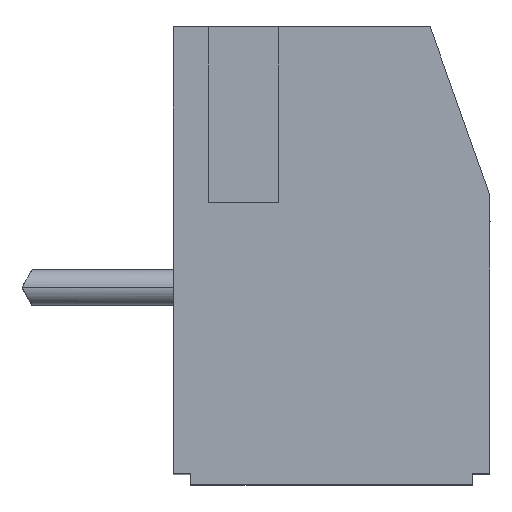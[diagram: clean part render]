
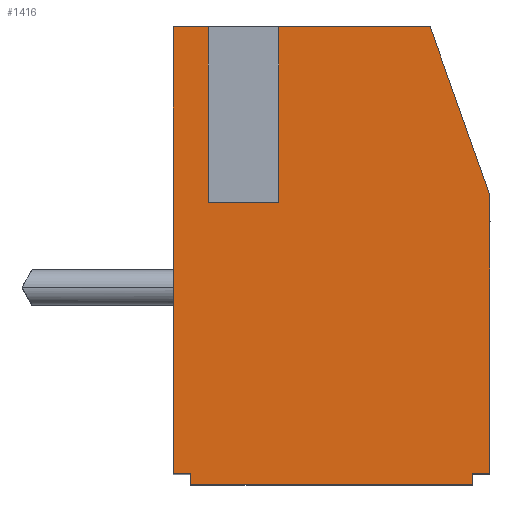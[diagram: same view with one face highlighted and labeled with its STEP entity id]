
A CAD part, top view. The second image highlights one B-rep face of the part: STEP entity #1416.
In plain terms, the highlighted planar face has unit normal (0, 0, 1).
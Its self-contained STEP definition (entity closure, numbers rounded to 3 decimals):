
#618 = EDGE_CURVE ( 'NONE', #639, #619, #4046, .T. ) ;
#619 = VERTEX_POINT ( 'NONE', #4042 ) ;
#636 = VERTEX_POINT ( 'NONE', #4081 ) ;
#638 = EDGE_CURVE ( 'NONE', #636, #639, #4080, .T. ) ;
#639 = VERTEX_POINT ( 'NONE', #4076 ) ;
#665 = EDGE_CURVE ( 'NONE', #685, #666, #4160, .T. ) ;
#666 = VERTEX_POINT ( 'NONE', #4156 ) ;
#672 = VERTEX_POINT ( 'NONE', #4141 ) ;
#674 = EDGE_CURVE ( 'NONE', #672, #5402, #4140, .T. ) ;
#679 = EDGE_CURVE ( 'NONE', #5404, #680, #4194, .T. ) ;
#680 = VERTEX_POINT ( 'NONE', #4190 ) ;
#684 = EDGE_CURVE ( 'NONE', #619, #685, #4184, .T. ) ;
#685 = VERTEX_POINT ( 'NONE', #4180 ) ;
#791 = VERTEX_POINT ( 'NONE', #4336 ) ;
#793 = EDGE_CURVE ( 'NONE', #791, #636, #4335, .T. ) ;
#1208 = EDGE_CURVE ( 'NONE', #1287, #791, #5043, .T. ) ;
#1287 = VERTEX_POINT ( 'NONE', #5134 ) ;
#1416 = ADVANCED_FACE ( 'NONE', ( #5445 ), #5444, .F. ) ;
#1417 = EDGE_LOOP ( 'NONE', ( #1418, #1419, #1481, #1482, #1485, #1488, #1490, #1491, #1492, #1468, #1469, #1470, #1471 ) ) ;
#1418 = ORIENTED_EDGE ( 'NONE', *, *, #679, .F. ) ;
#1419 = ORIENTED_EDGE ( 'NONE', *, *, #5413, .T. ) ;
#1468 = ORIENTED_EDGE ( 'NONE', *, *, #638, .F. ) ;
#1469 = ORIENTED_EDGE ( 'NONE', *, *, #793, .F. ) ;
#1470 = ORIENTED_EDGE ( 'NONE', *, *, #1208, .F. ) ;
#1471 = ORIENTED_EDGE ( 'NONE', *, *, #1472, .T. ) ;
#1472 = EDGE_CURVE ( 'NONE', #1287, #680, #5502, .T. ) ;
#1481 = ORIENTED_EDGE ( 'NONE', *, *, #674, .F. ) ;
#1482 = ORIENTED_EDGE ( 'NONE', *, *, #1483, .T. ) ;
#1483 = EDGE_CURVE ( 'NONE', #672, #1484, #5552, .T. ) ;
#1484 = VERTEX_POINT ( 'NONE', #5548 ) ;
#1485 = ORIENTED_EDGE ( 'NONE', *, *, #1486, .T. ) ;
#1486 = EDGE_CURVE ( 'NONE', #1484, #1487, #5547, .T. ) ;
#1487 = VERTEX_POINT ( 'NONE', #5543 ) ;
#1488 = ORIENTED_EDGE ( 'NONE', *, *, #1489, .T. ) ;
#1489 = EDGE_CURVE ( 'NONE', #1487, #666, #5542, .T. ) ;
#1490 = ORIENTED_EDGE ( 'NONE', *, *, #665, .F. ) ;
#1491 = ORIENTED_EDGE ( 'NONE', *, *, #684, .F. ) ;
#1492 = ORIENTED_EDGE ( 'NONE', *, *, #618, .F. ) ;
#4042 = CARTESIAN_POINT ( 'NONE',  ( 3.7, -0.3, 0. ) ) ;
#4043 = DIRECTION ( 'NONE',  ( 0., -1., 0. ) ) ;
#4044 = VECTOR ( 'NONE', #4043, 1000. ) ;
#4045 = CARTESIAN_POINT ( 'NONE',  ( 3.7, 6.2, 0. ) ) ;
#4046 = LINE ( 'NONE', #4045, #4044 ) ;
#4076 = CARTESIAN_POINT ( 'NONE',  ( 3.7, 0., 0. ) ) ;
#4077 = DIRECTION ( 'NONE',  ( -1., 0., 0. ) ) ;
#4078 = VECTOR ( 'NONE', #4077, 1000. ) ;
#4079 = CARTESIAN_POINT ( 'NONE',  ( -0.3, 0., 0. ) ) ;
#4080 = LINE ( 'NONE', #4079, #4078 ) ;
#4081 = CARTESIAN_POINT ( 'NONE',  ( 4.2, 0., 0. ) ) ;
#4137 = DIRECTION ( 'NONE',  ( 0., -1., 0. ) ) ;
#4138 = VECTOR ( 'NONE', #4137, 1000. ) ;
#4139 = CARTESIAN_POINT ( 'NONE',  ( -3.396, 6.2, 0. ) ) ;
#4140 = LINE ( 'NONE', #4139, #4138 ) ;
#4141 = CARTESIAN_POINT ( 'NONE',  ( -3.396, 12.7, 0. ) ) ;
#4156 = CARTESIAN_POINT ( 'NONE',  ( -4.3, 0., 0. ) ) ;
#4157 = DIRECTION ( 'NONE',  ( 0., 1., 0. ) ) ;
#4158 = VECTOR ( 'NONE', #4157, 1000. ) ;
#4159 = CARTESIAN_POINT ( 'NONE',  ( -4.3, 6.2, 0. ) ) ;
#4160 = LINE ( 'NONE', #4159, #4158 ) ;
#4180 = CARTESIAN_POINT ( 'NONE',  ( -4.3, -0.3, 0. ) ) ;
#4181 = DIRECTION ( 'NONE',  ( -1., 0., 0. ) ) ;
#4182 = VECTOR ( 'NONE', #4181, 1000. ) ;
#4183 = CARTESIAN_POINT ( 'NONE',  ( -0.3, -0.3, 0. ) ) ;
#4184 = LINE ( 'NONE', #4183, #4182 ) ;
#4190 = CARTESIAN_POINT ( 'NONE',  ( -2.204, 12.7, 0. ) ) ;
#4191 = DIRECTION ( 'NONE',  ( 0., 1., 0. ) ) ;
#4192 = VECTOR ( 'NONE', #4191, 1000. ) ;
#4193 = CARTESIAN_POINT ( 'NONE',  ( -2.204, 6.2, 0. ) ) ;
#4194 = LINE ( 'NONE', #4193, #4192 ) ;
#4332 = DIRECTION ( 'NONE',  ( 0., -1., 0. ) ) ;
#4333 = VECTOR ( 'NONE', #4332, 1000. ) ;
#4334 = CARTESIAN_POINT ( 'NONE',  ( 4.2, 6.2, 0. ) ) ;
#4335 = LINE ( 'NONE', #4334, #4333 ) ;
#4336 = CARTESIAN_POINT ( 'NONE',  ( 4.2, 7.9, 0. ) ) ;
#5040 = DIRECTION ( 'NONE',  ( 0.334, -0.943, 0. ) ) ;
#5041 = VECTOR ( 'NONE', #5040, 1000. ) ;
#5042 = CARTESIAN_POINT ( 'NONE',  ( 2.5, 12.7, 0. ) ) ;
#5043 = LINE ( 'NONE', #5042, #5041 ) ;
#5134 = CARTESIAN_POINT ( 'NONE',  ( 2.5, 12.7, 0. ) ) ;
#5402 = VERTEX_POINT ( 'NONE', #8531 ) ;
#5404 = VERTEX_POINT ( 'NONE', #8530 ) ;
#5413 = EDGE_CURVE ( 'NONE', #5404, #5402, #8577, .T. ) ;
#5440 = DIRECTION ( 'NONE',  ( -1., 0., 0. ) ) ;
#5441 = DIRECTION ( 'NONE',  ( 0., 0., -1. ) ) ;
#5442 = CARTESIAN_POINT ( 'NONE',  ( 4.2, -0.3, 0. ) ) ;
#5443 = AXIS2_PLACEMENT_3D ( 'NONE', #5442, #5441, #5440 ) ;
#5444 = PLANE ( 'NONE',  #5443 ) ;
#5445 = FACE_OUTER_BOUND ( 'NONE', #1417, .T. ) ;
#5499 = DIRECTION ( 'NONE',  ( -1., 0., 0. ) ) ;
#5500 = VECTOR ( 'NONE', #5499, 1000. ) ;
#5501 = CARTESIAN_POINT ( 'NONE',  ( -1.15, 12.7, 0. ) ) ;
#5502 = LINE ( 'NONE', #5501, #5500 ) ;
#5539 = DIRECTION ( 'NONE',  ( 1., 0., 0. ) ) ;
#5540 = VECTOR ( 'NONE', #5539, 1000. ) ;
#5541 = CARTESIAN_POINT ( 'NONE',  ( -0.3, 0., 0. ) ) ;
#5542 = LINE ( 'NONE', #5541, #5540 ) ;
#5543 = CARTESIAN_POINT ( 'NONE',  ( -4.8, 0., 0. ) ) ;
#5544 = DIRECTION ( 'NONE',  ( 0., -1., 0. ) ) ;
#5545 = VECTOR ( 'NONE', #5544, 1000. ) ;
#5546 = CARTESIAN_POINT ( 'NONE',  ( -4.8, 6.35, 0. ) ) ;
#5547 = LINE ( 'NONE', #5546, #5545 ) ;
#5548 = CARTESIAN_POINT ( 'NONE',  ( -4.8, 12.7, 0. ) ) ;
#5549 = DIRECTION ( 'NONE',  ( -1., 0., 0. ) ) ;
#5550 = VECTOR ( 'NONE', #5549, 1000. ) ;
#5551 = CARTESIAN_POINT ( 'NONE',  ( -1.15, 12.7, 0. ) ) ;
#5552 = LINE ( 'NONE', #5551, #5550 ) ;
#8530 = CARTESIAN_POINT ( 'NONE',  ( -2.204, 7.7, 0. ) ) ;
#8531 = CARTESIAN_POINT ( 'NONE',  ( -3.396, 7.7, 0. ) ) ;
#8574 = DIRECTION ( 'NONE',  ( -1., 0., 0. ) ) ;
#8575 = VECTOR ( 'NONE', #8574, 1000. ) ;
#8576 = CARTESIAN_POINT ( 'NONE',  ( -2.8, 7.7, 0. ) ) ;
#8577 = LINE ( 'NONE', #8576, #8575 ) ;
